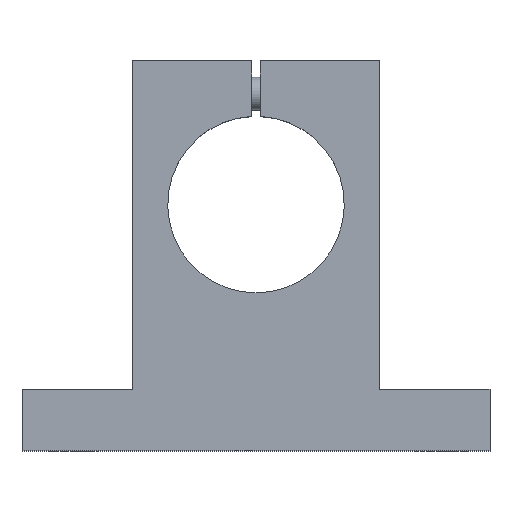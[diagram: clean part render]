
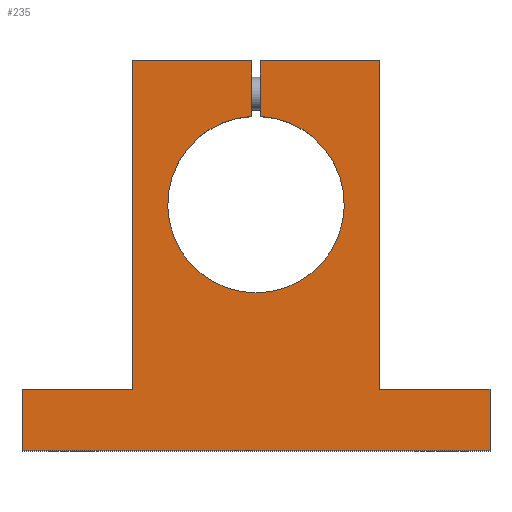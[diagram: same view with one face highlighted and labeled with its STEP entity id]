
A CAD part, top view. The second image highlights one B-rep face of the part: STEP entity #235.
In plain terms, the highlighted planar face has unit normal (0, 0, 1).
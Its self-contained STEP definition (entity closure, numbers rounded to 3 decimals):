
#235=ADVANCED_FACE('',(#656),#658,.T.);
#656=FACE_BOUND('',#657,.T.);
#657=EDGE_LOOP('',(#1014,#1015,#1016,#1017,#1018,#1019,#1020,#1021,#1022,#1023,#1024,
#1025));
#658=PLANE('',#659);
#659=AXIS2_PLACEMENT_3D('',#660,#661,#662);
#660=CARTESIAN_POINT('',(0.,0.,16.5));
#661=DIRECTION('',(0.,0.,1.));
#662=DIRECTION('',(1.,0.,0.));
#1014=ORIENTED_EDGE('',*,*,#1188,.T.);
#1015=ORIENTED_EDGE('',*,*,#1189,.T.);
#1016=ORIENTED_EDGE('',*,*,#1190,.T.);
#1017=ORIENTED_EDGE('',*,*,#1191,.T.);
#1018=ORIENTED_EDGE('',*,*,#1192,.T.);
#1019=ORIENTED_EDGE('',*,*,#1193,.T.);
#1020=ORIENTED_EDGE('',*,*,#1194,.T.);
#1021=ORIENTED_EDGE('',*,*,#1171,.T.);
#1022=ORIENTED_EDGE('',*,*,#1195,.T.);
#1023=ORIENTED_EDGE('',*,*,#1160,.T.);
#1024=ORIENTED_EDGE('',*,*,#1187,.T.);
#1025=ORIENTED_EDGE('',*,*,#1166,.T.);
#1160=EDGE_CURVE('',#1253,#1251,#1254,.T.);
#1166=EDGE_CURVE('',#1265,#1263,#1266,.T.);
#1171=EDGE_CURVE('',#1275,#1273,#1276,.T.);
#1187=EDGE_CURVE('',#1251,#1265,#1303,.T.);
#1188=EDGE_CURVE('',#1263,#1304,#1305,.T.);
#1189=EDGE_CURVE('',#1304,#1306,#1307,.T.);
#1190=EDGE_CURVE('',#1306,#1308,#1309,.T.);
#1191=EDGE_CURVE('',#1308,#1310,#1311,.T.);
#1192=EDGE_CURVE('',#1310,#1312,#1313,.T.);
#1193=EDGE_CURVE('',#1312,#1314,#1315,.T.);
#1194=EDGE_CURVE('',#1314,#1275,#1316,.T.);
#1195=EDGE_CURVE('',#1273,#1253,#1317,.T.);
#1251=VERTEX_POINT('',#1409);
#1253=VERTEX_POINT('',#1413);
#1254=LINE('',#1414,#1415);
#1263=VERTEX_POINT('',#1435);
#1265=VERTEX_POINT('',#1439);
#1266=LINE('',#1440,#1441);
#1273=VERTEX_POINT('',#1456);
#1275=VERTEX_POINT('',#1460);
#1276=LINE('',#1461,#1462);
#1303=LINE('',#1526,#1527);
#1304=VERTEX_POINT('',#1529);
#1305=LINE('',#1530,#1531);
#1306=VERTEX_POINT('',#1533);
#1307=LINE('',#1534,#1535);
#1308=VERTEX_POINT('',#1537);
#1309=LINE('',#1538,#1539);
#1310=VERTEX_POINT('',#1541);
#1311=CIRCLE('',#1542,21.5);
#1312=VERTEX_POINT('',#1546);
#1313=LINE('',#1547,#1548);
#1314=VERTEX_POINT('',#1550);
#1315=LINE('',#1551,#1552);
#1316=LINE('',#1554,#1555);
#1317=LINE('',#1557,#1558);
#1409=CARTESIAN_POINT('',(57.,-60.,16.5));
#1413=CARTESIAN_POINT('',(-57.,-60.,16.5));
#1414=CARTESIAN_POINT('',(-57.,-60.,16.5));
#1415=VECTOR('',#1416,1.);
#1416=DIRECTION('',(1.,0.,0.));
#1435=CARTESIAN_POINT('',(30.,-45.,16.5));
#1439=CARTESIAN_POINT('',(57.,-45.,16.5));
#1440=CARTESIAN_POINT('',(57.,-45.,16.5));
#1441=VECTOR('',#1442,1.);
#1442=DIRECTION('',(-1.,0.,0.));
#1456=CARTESIAN_POINT('',(-57.,-45.,16.5));
#1460=CARTESIAN_POINT('',(-30.,-45.,16.5));
#1461=CARTESIAN_POINT('',(-30.,-45.,16.5));
#1462=VECTOR('',#1463,1.);
#1463=DIRECTION('',(-1.,0.,0.));
#1526=CARTESIAN_POINT('',(57.,-60.,16.5));
#1527=VECTOR('',#1528,1.);
#1528=DIRECTION('',(0.,1.,0.));
#1529=CARTESIAN_POINT('',(30.,35.,16.5));
#1530=CARTESIAN_POINT('',(30.,-45.,16.5));
#1531=VECTOR('',#1532,1.);
#1532=DIRECTION('',(0.,1.,0.));
#1533=CARTESIAN_POINT('',(1.,35.,16.5));
#1534=CARTESIAN_POINT('',(30.,35.,16.5));
#1535=VECTOR('',#1536,1.);
#1536=DIRECTION('',(-1.,0.,0.));
#1537=CARTESIAN_POINT('',(1.,21.477,16.5));
#1538=CARTESIAN_POINT('',(1.,35.,16.5));
#1539=VECTOR('',#1540,1.);
#1540=DIRECTION('',(0.,-1.,0.));
#1541=CARTESIAN_POINT('',(-1.,21.477,16.5));
#1542=AXIS2_PLACEMENT_3D('',#1543,#1544,#1545);
#1543=CARTESIAN_POINT('',(0.,0.,16.5));
#1544=DIRECTION('',(0.,0.,-1.));
#1545=DIRECTION('',(0.047,0.999,0.));
#1546=CARTESIAN_POINT('',(-1.,35.,16.5));
#1547=CARTESIAN_POINT('',(-1.,21.477,16.5));
#1548=VECTOR('',#1549,1.);
#1549=DIRECTION('',(0.,1.,0.));
#1550=CARTESIAN_POINT('',(-30.,35.,16.5));
#1551=CARTESIAN_POINT('',(-1.,35.,16.5));
#1552=VECTOR('',#1553,1.);
#1553=DIRECTION('',(-1.,0.,0.));
#1554=CARTESIAN_POINT('',(-30.,35.,16.5));
#1555=VECTOR('',#1556,1.);
#1556=DIRECTION('',(0.,-1.,0.));
#1557=CARTESIAN_POINT('',(-57.,-45.,16.5));
#1558=VECTOR('',#1559,1.);
#1559=DIRECTION('',(0.,-1.,0.));
